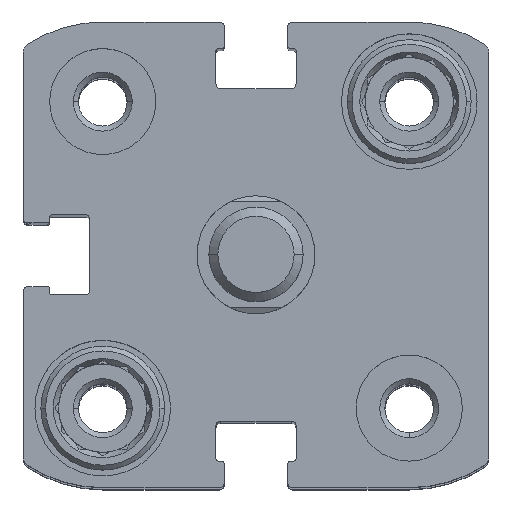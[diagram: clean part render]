
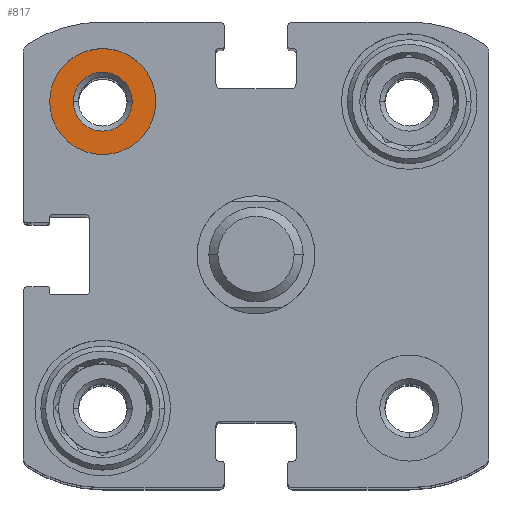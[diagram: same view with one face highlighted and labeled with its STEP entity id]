
A CAD part, top view. The second image highlights one B-rep face of the part: STEP entity #817.
In plain terms, the highlighted planar face has unit normal (0, 0, 1).
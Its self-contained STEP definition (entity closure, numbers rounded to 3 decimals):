
#190 = DIRECTION ( 'NONE',  ( 0., 0., 1. ) ) ;
#817 = ADVANCED_FACE ( 'NONE', ( #12757, #6362 ), #5411, .T. ) ;
#1314 = ORIENTED_EDGE ( 'NONE', *, *, #3172, .F. ) ;
#1439 = VERTEX_POINT ( 'NONE', #3758 ) ;
#1553 = EDGE_CURVE ( 'NONE', #11057, #1439, #10370, .T. ) ;
#1804 = ORIENTED_EDGE ( 'NONE', *, *, #1553, .T. ) ;
#1989 = CARTESIAN_POINT ( 'NONE',  ( -13., 13., -4.8 ) ) ;
#2112 = AXIS2_PLACEMENT_3D ( 'NONE', #11613, #190, #4201 ) ;
#2302 = EDGE_LOOP ( 'NONE', ( #1804, #6321 ) ) ;
#3172 = EDGE_CURVE ( 'NONE', #9617, #8116, #12620, .T. ) ;
#3758 = CARTESIAN_POINT ( 'NONE',  ( -15.5, 13., -4.8 ) ) ;
#3890 = DIRECTION ( 'NONE',  ( -1., 0., 0. ) ) ;
#4201 = DIRECTION ( 'NONE',  ( 1., 0., 0. ) ) ;
#4955 = DIRECTION ( 'NONE',  ( 0., 0., -1. ) ) ;
#5227 = DIRECTION ( 'NONE',  ( -1., 0., 0. ) ) ;
#5278 = CARTESIAN_POINT ( 'NONE',  ( -10.5, 13., -4.8 ) ) ;
#5408 = AXIS2_PLACEMENT_3D ( 'NONE', #1989, #4955, #5227 ) ;
#5411 = PLANE ( 'NONE',  #2112 ) ;
#5660 = CARTESIAN_POINT ( 'NONE',  ( -13., 13., -4.8 ) ) ;
#5869 = AXIS2_PLACEMENT_3D ( 'NONE', #5660, #9614, #8574 ) ;
#6321 = ORIENTED_EDGE ( 'NONE', *, *, #10349, .T. ) ;
#6362 = FACE_BOUND ( 'NONE', #2302, .T. ) ;
#7323 = AXIS2_PLACEMENT_3D ( 'NONE', #7327, #12253, #11428 ) ;
#7327 = CARTESIAN_POINT ( 'NONE',  ( -13., 13., -4.8 ) ) ;
#8116 = VERTEX_POINT ( 'NONE', #8399 ) ;
#8399 = CARTESIAN_POINT ( 'NONE',  ( -8.5, 13., -4.8 ) ) ;
#8574 = DIRECTION ( 'NONE',  ( -1., 0., 0. ) ) ;
#9231 = EDGE_CURVE ( 'NONE', #8116, #9617, #9533, .T. ) ;
#9533 = CIRCLE ( 'NONE', #5408, 4.5 ) ;
#9614 = DIRECTION ( 'NONE',  ( 0., 0., -1. ) ) ;
#9617 = VERTEX_POINT ( 'NONE', #10050 ) ;
#9637 = EDGE_LOOP ( 'NONE', ( #1314, #13011 ) ) ;
#10050 = CARTESIAN_POINT ( 'NONE',  ( -17.5, 13., -4.8 ) ) ;
#10349 = EDGE_CURVE ( 'NONE', #1439, #11057, #11745, .T. ) ;
#10370 = CIRCLE ( 'NONE', #7323, 2.5 ) ;
#10881 = AXIS2_PLACEMENT_3D ( 'NONE', #11163, #13200, #3890 ) ;
#11057 = VERTEX_POINT ( 'NONE', #5278 ) ;
#11163 = CARTESIAN_POINT ( 'NONE',  ( -13., 13., -4.8 ) ) ;
#11428 = DIRECTION ( 'NONE',  ( -1., 0., 0. ) ) ;
#11613 = CARTESIAN_POINT ( 'NONE',  ( -13., 17.5, -4.8 ) ) ;
#11745 = CIRCLE ( 'NONE', #5869, 2.5 ) ;
#12253 = DIRECTION ( 'NONE',  ( 0., 0., -1. ) ) ;
#12620 = CIRCLE ( 'NONE', #10881, 4.5 ) ;
#12757 = FACE_OUTER_BOUND ( 'NONE', #9637, .T. ) ;
#13011 = ORIENTED_EDGE ( 'NONE', *, *, #9231, .F. ) ;
#13200 = DIRECTION ( 'NONE',  ( 0., 0., -1. ) ) ;
